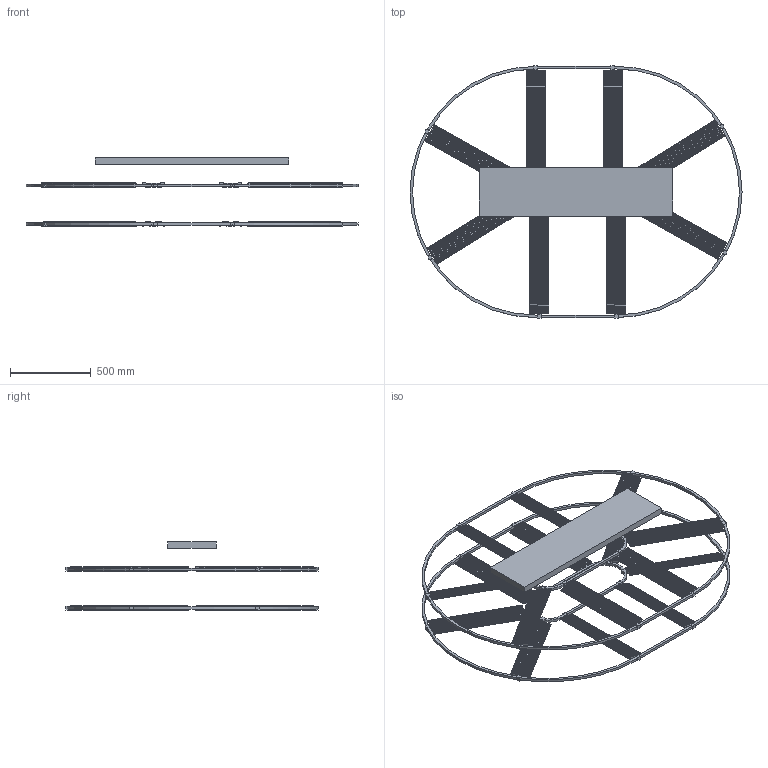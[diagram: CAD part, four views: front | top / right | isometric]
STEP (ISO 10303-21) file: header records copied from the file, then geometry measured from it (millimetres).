
FILE_DESCRIPTION(('FreeCAD Model'),'2;1');
FILE_NAME('Open CASCADE Shape Model','2026-10-29T08:24:19',('FreeCAD'),( 'FreeCAD'),'Open CASCADE STEP processor 7.8','FreeCAD','Unknown');
FILE_SCHEMA(('AUTOMOTIVE_DESIGN { 1 0 10303 214 1 1 1 1 }'));
Products named in the file (1): Open CASCADE STEP translator 7.8 1
Bounding box: 2056 x 1564 x 422.47 mm (x, y, z)
Volume: 30563985.7 mm3; surface area: 4576356.6 mm2
Topology: 69 solids, 69 shells, 1918 faces, 5340 edges, 3560 vertices
Faces by surface type: plane 1886, cylinder 32
Full cylindrical faces by diameter (mm): 8 x16
Entity records: 60078 total; most frequent: CARTESIAN_POINT 10819, ORIENTED_EDGE 10680, DIRECTION 9242, EDGE_CURVE 5340, LINE 5276, VECTOR 5276, VERTEX_POINT 3560, AXIS2_PLACEMENT_3D 1983
